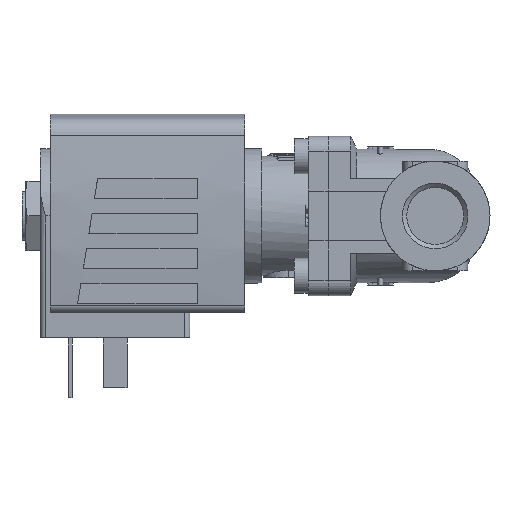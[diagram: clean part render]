
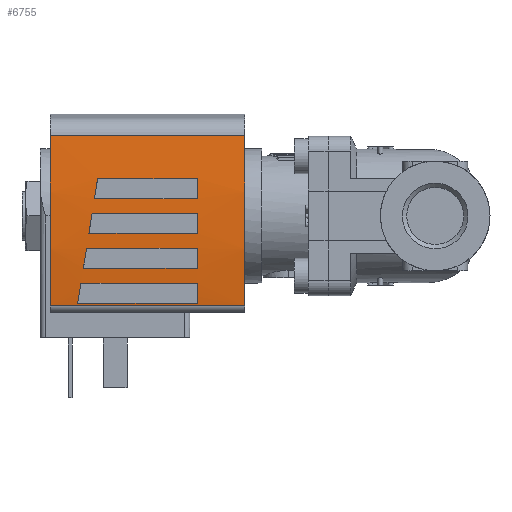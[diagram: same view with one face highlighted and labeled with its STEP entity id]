
A CAD part, left-side view. The second image highlights one B-rep face of the part: STEP entity #6755.
In plain terms, the highlighted cylindrical face has radius 130 mm (diameter 260 mm), a partial arc.
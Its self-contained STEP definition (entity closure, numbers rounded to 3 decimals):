
#91=ELLIPSE('',#7311,131.653,130.);
#92=ELLIPSE('',#7313,131.653,130.);
#93=ELLIPSE('',#7316,131.653,130.);
#94=ELLIPSE('',#7318,131.653,130.);
#240=CYLINDRICAL_SURFACE('',#7310,130.);
#621=LINE('',#10586,#1113);
#623=LINE('',#10606,#1115);
#624=LINE('',#10610,#1116);
#625=LINE('',#10611,#1117);
#626=LINE('',#10616,#1118);
#627=LINE('',#10621,#1119);
#628=LINE('',#10625,#1120);
#629=LINE('',#10629,#1121);
#630=LINE('',#10633,#1122);
#631=LINE('',#10637,#1123);
#1113=VECTOR('',#8692,1000.);
#1115=VECTOR('',#8714,1000.);
#1116=VECTOR('',#8717,1000.);
#1117=VECTOR('',#8718,1000.);
#1118=VECTOR('',#8721,1000.);
#1119=VECTOR('',#8726,1000.);
#1120=VECTOR('',#8729,1000.);
#1121=VECTOR('',#8732,1000.);
#1122=VECTOR('',#8735,1000.);
#1123=VECTOR('',#8738,1000.);
#2465=ORIENTED_EDGE('',*,*,#3486,.F.);
#2466=ORIENTED_EDGE('',*,*,#3487,.F.);
#2467=ORIENTED_EDGE('',*,*,#3488,.F.);
#2468=ORIENTED_EDGE('',*,*,#3489,.F.);
#2469=ORIENTED_EDGE('',*,*,#3490,.F.);
#2470=ORIENTED_EDGE('',*,*,#3491,.F.);
#2471=ORIENTED_EDGE('',*,*,#3492,.F.);
#2472=ORIENTED_EDGE('',*,*,#3493,.F.);
#2473=ORIENTED_EDGE('',*,*,#3494,.T.);
#2474=ORIENTED_EDGE('',*,*,#3495,.F.);
#2475=ORIENTED_EDGE('',*,*,#3480,.F.);
#2476=ORIENTED_EDGE('',*,*,#3477,.T.);
#2477=ORIENTED_EDGE('',*,*,#3496,.F.);
#2478=ORIENTED_EDGE('',*,*,#3497,.F.);
#2479=ORIENTED_EDGE('',*,*,#3498,.F.);
#2480=ORIENTED_EDGE('',*,*,#3499,.F.);
#2481=ORIENTED_EDGE('',*,*,#3500,.F.);
#2482=ORIENTED_EDGE('',*,*,#3501,.F.);
#2483=ORIENTED_EDGE('',*,*,#3502,.F.);
#2484=ORIENTED_EDGE('',*,*,#3503,.F.);
#3477=EDGE_CURVE('',#4088,#4087,#621,.T.);
#3480=EDGE_CURVE('',#4088,#4090,#4362,.T.);
#3486=EDGE_CURVE('',#4094,#4095,#91,.T.);
#3487=EDGE_CURVE('',#4096,#4094,#623,.F.);
#3488=EDGE_CURVE('',#4097,#4096,#4367,.T.);
#3489=EDGE_CURVE('',#4095,#4097,#624,.T.);
#3490=EDGE_CURVE('',#4098,#4099,#625,.T.);
#3491=EDGE_CURVE('',#4100,#4098,#92,.T.);
#3492=EDGE_CURVE('',#4101,#4100,#626,.F.);
#3493=EDGE_CURVE('',#4099,#4101,#4368,.T.);
#3494=EDGE_CURVE('',#4087,#4102,#4369,.T.);
#3495=EDGE_CURVE('',#4090,#4102,#627,.T.);
#3496=EDGE_CURVE('',#4103,#4104,#93,.T.);
#3497=EDGE_CURVE('',#4105,#4103,#628,.F.);
#3498=EDGE_CURVE('',#4106,#4105,#4370,.T.);
#3499=EDGE_CURVE('',#4104,#4106,#629,.T.);
#3500=EDGE_CURVE('',#4107,#4108,#94,.T.);
#3501=EDGE_CURVE('',#4109,#4107,#630,.F.);
#3502=EDGE_CURVE('',#4110,#4109,#4371,.T.);
#3503=EDGE_CURVE('',#4108,#4110,#631,.T.);
#4087=VERTEX_POINT('',#10585);
#4088=VERTEX_POINT('',#10587);
#4090=VERTEX_POINT('',#10593);
#4094=VERTEX_POINT('',#10604);
#4095=VERTEX_POINT('',#10605);
#4096=VERTEX_POINT('',#10607);
#4097=VERTEX_POINT('',#10609);
#4098=VERTEX_POINT('',#10612);
#4099=VERTEX_POINT('',#10613);
#4100=VERTEX_POINT('',#10615);
#4101=VERTEX_POINT('',#10617);
#4102=VERTEX_POINT('',#10620);
#4103=VERTEX_POINT('',#10623);
#4104=VERTEX_POINT('',#10624);
#4105=VERTEX_POINT('',#10626);
#4106=VERTEX_POINT('',#10628);
#4107=VERTEX_POINT('',#10631);
#4108=VERTEX_POINT('',#10632);
#4109=VERTEX_POINT('',#10634);
#4110=VERTEX_POINT('',#10636);
#4362=CIRCLE('',#7305,130.);
#4367=CIRCLE('',#7312,130.);
#4368=CIRCLE('',#7314,130.);
#4369=CIRCLE('',#7315,130.);
#4370=CIRCLE('',#7317,130.);
#4371=CIRCLE('',#7319,130.);
#4668=EDGE_LOOP('',(#2465,#2466,#2467,#2468));
#4669=EDGE_LOOP('',(#2469,#2470,#2471,#2472));
#4670=EDGE_LOOP('',(#2473,#2474,#2475,#2476));
#4671=EDGE_LOOP('',(#2477,#2478,#2479,#2480));
#4672=EDGE_LOOP('',(#2481,#2482,#2483,#2484));
#5043=FACE_BOUND('',#4668,.T.);
#5044=FACE_BOUND('',#4669,.T.);
#5045=FACE_BOUND('',#4670,.T.);
#5046=FACE_BOUND('',#4671,.T.);
#5047=FACE_BOUND('',#4672,.T.);
#6755=ADVANCED_FACE('',(#5043,#5044,#5045,#5046,#5047),#240,.T.);
#7305=AXIS2_PLACEMENT_3D('',#10592,#8699,#8700);
#7310=AXIS2_PLACEMENT_3D('',#10602,#8710,#8711);
#7311=AXIS2_PLACEMENT_3D('',#10603,#8712,#8713);
#7312=AXIS2_PLACEMENT_3D('',#10608,#8715,#8716);
#7313=AXIS2_PLACEMENT_3D('',#10614,#8719,#8720);
#7314=AXIS2_PLACEMENT_3D('',#10618,#8722,#8723);
#7315=AXIS2_PLACEMENT_3D('',#10619,#8724,#8725);
#7316=AXIS2_PLACEMENT_3D('',#10622,#8727,#8728);
#7317=AXIS2_PLACEMENT_3D('',#10627,#8730,#8731);
#7318=AXIS2_PLACEMENT_3D('',#10630,#8733,#8734);
#7319=AXIS2_PLACEMENT_3D('',#10635,#8736,#8737);
#8692=DIRECTION('',(0.,-1.,0.));
#8699=DIRECTION('',(0.,1.,0.));
#8700=DIRECTION('',(1.,0.,0.));
#8710=DIRECTION('',(0.,-1.,0.));
#8711=DIRECTION('',(0.,0.,-1.));
#8712=DIRECTION('',(-0.158,-0.987,0.));
#8713=DIRECTION('',(0.987,-0.158,0.));
#8714=DIRECTION('',(0.,-1.,0.));
#8715=DIRECTION('',(0.,1.,0.));
#8716=DIRECTION('',(0.,0.,1.));
#8717=DIRECTION('',(0.,-1.,0.));
#8718=DIRECTION('',(0.,-1.,0.));
#8719=DIRECTION('',(-0.158,-0.987,0.));
#8720=DIRECTION('',(0.987,-0.158,0.));
#8721=DIRECTION('',(0.,-1.,0.));
#8722=DIRECTION('',(0.,1.,0.));
#8723=DIRECTION('',(0.,0.,1.));
#8724=DIRECTION('',(0.,1.,0.));
#8725=DIRECTION('',(1.,0.,0.));
#8726=DIRECTION('',(0.,-1.,0.));
#8727=DIRECTION('',(-0.158,-0.987,0.));
#8728=DIRECTION('',(0.987,-0.158,0.));
#8729=DIRECTION('',(0.,-1.,0.));
#8730=DIRECTION('',(0.,1.,0.));
#8731=DIRECTION('',(0.,0.,1.));
#8732=DIRECTION('',(0.,-1.,0.));
#8733=DIRECTION('',(-0.158,-0.987,0.));
#8734=DIRECTION('',(0.987,-0.158,0.));
#8735=DIRECTION('',(0.,-1.,0.));
#8736=DIRECTION('',(0.,1.,0.));
#8737=DIRECTION('',(0.,0.,1.));
#8738=DIRECTION('',(0.,-1.,0.));
#10585=CARTESIAN_POINT('',(-18.071,-26.,14.738));
#10586=CARTESIAN_POINT('',(-18.071,13.,14.738));
#10587=CARTESIAN_POINT('',(-18.071,13.,14.738));
#10592=CARTESIAN_POINT('',(0.,13.,-114.));
#10593=CARTESIAN_POINT('',(16.195,13.,14.987));
#10602=CARTESIAN_POINT('',(0.,13.,-114.));
#10603=CARTESIAN_POINT('',(0.,4.7,-114.));
#10604=CARTESIAN_POINT('',(0.5,4.62,15.999));
#10605=CARTESIAN_POINT('',(-3.5,5.26,15.953));
#10606=CARTESIAN_POINT('',(0.5,13.,15.999));
#10607=CARTESIAN_POINT('',(0.5,-16.5,15.999));
#10608=CARTESIAN_POINT('',(0.,-16.5,-114.));
#10609=CARTESIAN_POINT('',(-3.5,-16.5,15.953));
#10610=CARTESIAN_POINT('',(-3.5,13.,15.953));
#10611=CARTESIAN_POINT('',(-17.5,13.,14.817));
#10612=CARTESIAN_POINT('',(-17.5,7.5,14.817));
#10613=CARTESIAN_POINT('',(-17.5,-16.5,14.817));
#10614=CARTESIAN_POINT('',(0.,4.7,-114.));
#10615=CARTESIAN_POINT('',(-13.5,6.86,15.297));
#10616=CARTESIAN_POINT('',(-13.5,13.,15.297));
#10617=CARTESIAN_POINT('',(-13.5,-16.5,15.297));
#10618=CARTESIAN_POINT('',(0.,-16.5,-114.));
#10619=CARTESIAN_POINT('',(0.,-26.,-114.));
#10620=CARTESIAN_POINT('',(16.195,-26.,14.987));
#10621=CARTESIAN_POINT('',(16.195,13.,14.987));
#10622=CARTESIAN_POINT('',(0.,4.7,-114.));
#10623=CARTESIAN_POINT('',(-6.5,5.74,15.837));
#10624=CARTESIAN_POINT('',(-10.5,6.38,15.575));
#10625=CARTESIAN_POINT('',(-6.5,13.,15.837));
#10626=CARTESIAN_POINT('',(-6.5,-16.5,15.837));
#10627=CARTESIAN_POINT('',(0.,-16.5,-114.));
#10628=CARTESIAN_POINT('',(-10.5,-16.5,15.575));
#10629=CARTESIAN_POINT('',(-10.5,13.,15.575));
#10630=CARTESIAN_POINT('',(0.,4.7,-114.));
#10631=CARTESIAN_POINT('',(7.5,3.5,15.783));
#10632=CARTESIAN_POINT('',(3.5,4.14,15.953));
#10633=CARTESIAN_POINT('',(7.5,13.,15.783));
#10634=CARTESIAN_POINT('',(7.5,-16.5,15.783));
#10635=CARTESIAN_POINT('',(0.,-16.5,-114.));
#10636=CARTESIAN_POINT('',(3.5,-16.5,15.953));
#10637=CARTESIAN_POINT('',(3.5,13.,15.953));
